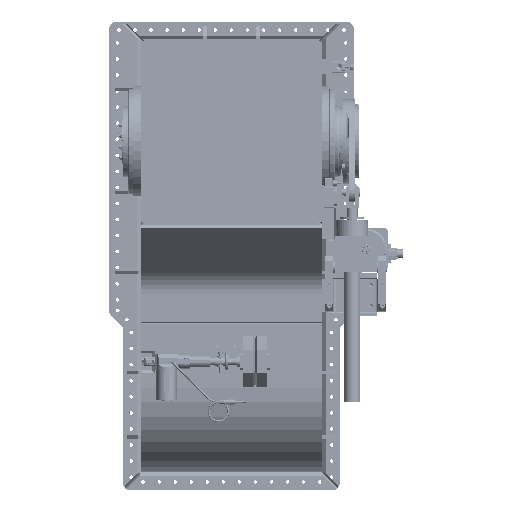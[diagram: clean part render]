
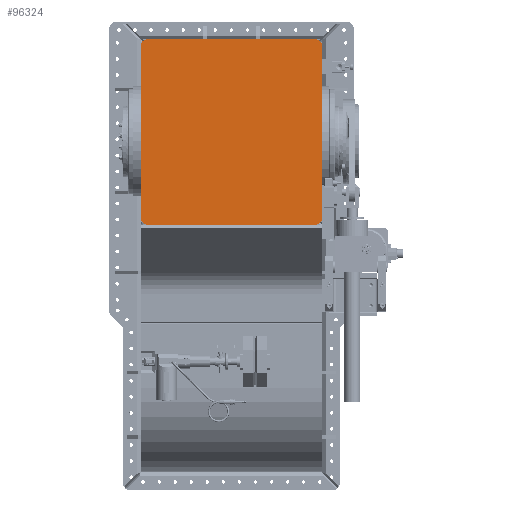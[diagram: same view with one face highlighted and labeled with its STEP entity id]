
A CAD part, top view. The second image highlights one B-rep face of the part: STEP entity #96324.
In plain terms, the highlighted planar face has unit normal (0, 0, 1).
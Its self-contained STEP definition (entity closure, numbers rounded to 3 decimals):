
#6267=CIRCLE('',#102433,20.);
#6268=CIRCLE('',#102434,20.);
#6269=CIRCLE('',#102435,20.);
#6270=CIRCLE('',#102436,20.);
#12513=FACE_OUTER_BOUND('',#17708,.T.);
#17708=EDGE_LOOP('',(#75078,#75079,#75080,#75081,#75082,#75083,#75084,#75085));
#24487=LINE('',#157955,#32855);
#24488=LINE('',#157959,#32856);
#24489=LINE('',#157963,#32857);
#24490=LINE('',#157966,#32858);
#32855=VECTOR('',#119010,10.);
#32856=VECTOR('',#119013,10.);
#32857=VECTOR('',#119016,10.);
#32858=VECTOR('',#119019,10.);
#41852=VERTEX_POINT('',#157951);
#41853=VERTEX_POINT('',#157952);
#41854=VERTEX_POINT('',#157954);
#41855=VERTEX_POINT('',#157956);
#41856=VERTEX_POINT('',#157958);
#41857=VERTEX_POINT('',#157960);
#41858=VERTEX_POINT('',#157962);
#41859=VERTEX_POINT('',#157964);
#54497=EDGE_CURVE('',#41852,#41853,#6267,.T.);
#54498=EDGE_CURVE('',#41854,#41852,#24487,.T.);
#54499=EDGE_CURVE('',#41855,#41854,#6268,.T.);
#54500=EDGE_CURVE('',#41856,#41855,#24488,.T.);
#54501=EDGE_CURVE('',#41857,#41856,#6269,.T.);
#54502=EDGE_CURVE('',#41858,#41857,#24489,.T.);
#54503=EDGE_CURVE('',#41859,#41858,#6270,.T.);
#54504=EDGE_CURVE('',#41853,#41859,#24490,.T.);
#75078=ORIENTED_EDGE('',*,*,#54497,.F.);
#75079=ORIENTED_EDGE('',*,*,#54498,.F.);
#75080=ORIENTED_EDGE('',*,*,#54499,.F.);
#75081=ORIENTED_EDGE('',*,*,#54500,.F.);
#75082=ORIENTED_EDGE('',*,*,#54501,.F.);
#75083=ORIENTED_EDGE('',*,*,#54502,.F.);
#75084=ORIENTED_EDGE('',*,*,#54503,.F.);
#75085=ORIENTED_EDGE('',*,*,#54504,.F.);
#88389=PLANE('',#102432);
#96324=ADVANCED_FACE('',(#12513),#88389,.T.);
#102432=AXIS2_PLACEMENT_3D('',#157950,#119006,#119007);
#102433=AXIS2_PLACEMENT_3D('',#157953,#119008,#119009);
#102434=AXIS2_PLACEMENT_3D('',#157957,#119011,#119012);
#102435=AXIS2_PLACEMENT_3D('',#157961,#119014,#119015);
#102436=AXIS2_PLACEMENT_3D('',#157965,#119017,#119018);
#119006=DIRECTION('center_axis',(0.,0.,
1.));
#119007=DIRECTION('ref_axis',(0.,-1.,0.));
#119008=DIRECTION('center_axis',(0.,0.,
-1.));
#119009=DIRECTION('ref_axis',(0.707,-0.707,0.));
#119010=DIRECTION('',(0.,-1.,0.));
#119011=DIRECTION('center_axis',(0.,0.,
-1.));
#119012=DIRECTION('ref_axis',(0.707,0.707,0.));
#119013=DIRECTION('',(1.,0.,0.));
#119014=DIRECTION('center_axis',(0.,0.,
-1.));
#119015=DIRECTION('ref_axis',(-0.707,0.707,0.));
#119016=DIRECTION('',(0.,1.,0.));
#119017=DIRECTION('center_axis',(0.,0.,
-1.));
#119018=DIRECTION('ref_axis',(-0.707,-0.707,0.));
#119019=DIRECTION('',(-1.,0.,0.));
#157950=CARTESIAN_POINT('Origin',(362.081,751.13,627.));
#157951=CARTESIAN_POINT('',(644.081,482.63,627.));
#157952=CARTESIAN_POINT('',(624.081,462.63,627.));
#157953=CARTESIAN_POINT('Origin',(624.081,482.63,627.));
#157954=CARTESIAN_POINT('',(644.081,1019.63,627.));
#157955=CARTESIAN_POINT('',(644.081,1039.63,627.));
#157956=CARTESIAN_POINT('',(624.081,1039.63,627.));
#157957=CARTESIAN_POINT('Origin',(624.081,1019.63,627.));
#157958=CARTESIAN_POINT('',(100.081,1039.63,627.));
#157959=CARTESIAN_POINT('',(80.081,1039.63,627.));
#157960=CARTESIAN_POINT('',(80.081,1019.63,627.));
#157961=CARTESIAN_POINT('Origin',(100.081,1019.63,627.));
#157962=CARTESIAN_POINT('',(80.081,482.63,627.));
#157963=CARTESIAN_POINT('',(80.081,462.63,627.));
#157964=CARTESIAN_POINT('',(100.081,462.63,627.));
#157965=CARTESIAN_POINT('Origin',(100.081,482.63,627.));
#157966=CARTESIAN_POINT('',(644.081,462.63,627.));
